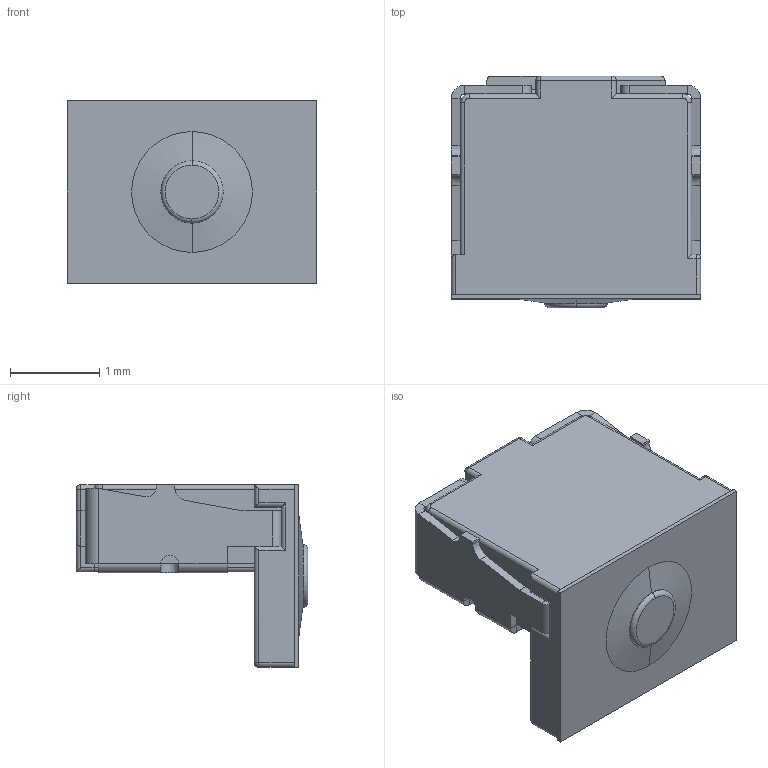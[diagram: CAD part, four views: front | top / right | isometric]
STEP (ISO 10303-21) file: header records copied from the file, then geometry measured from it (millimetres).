
FILE_DESCRIPTION((''),'2;1');
FILE_NAME('JQD2028F-B0271-02FG-1-103_ASM','2026-05-20T18:22:47',('Admin'),(''),'CREO PARAMETRIC BY PTC INC, 2019224','CREO PARAMETRIC BY PTC INC, 2019224','');
FILE_SCHEMA(('AUTOMOTIVE_DESIGN { 1 0 10303 214 1 1 1 1 }'));
Length unit declared in the file: millimetre
Products named in the file (4): JQD2028F-B0271-02FG-1-103_01; JQD2028F-B0271-02FG-1-103_02; JQD2028F-B0271-02FG-1-103_03; JQD2028F-B0271-02FG-1-103_ASM
Assembly tree (3 placements, depth 2):
  JQD2028F-B0271-02FG-1-103_ASM
    JQD2028F-B0271-02FG-1-103_01
    JQD2028F-B0271-02FG-1-103_02
    JQD2028F-B0271-02FG-1-103_03
Bounding box: 2.8 x 2.6 x 2.05 mm (x, y, z)
Volume: 6.9 mm3; surface area: 59.6 mm2
Topology: 3 solids, 4 shells, 208 faces, 495 edges, 295 vertices
Faces by surface type: plane 119, cylinder 78, sphere 5, torus 3, cone 2, bspline 1
Entity records: 7187 total; most frequent: CARTESIAN_POINT 1302, DIRECTION 1007, ORIENTED_EDGE 986, EDGE_CURVE 493, VECTOR 353, LINE 353, AXIS2_PLACEMENT_3D 327, VERTEX_POINT 291
